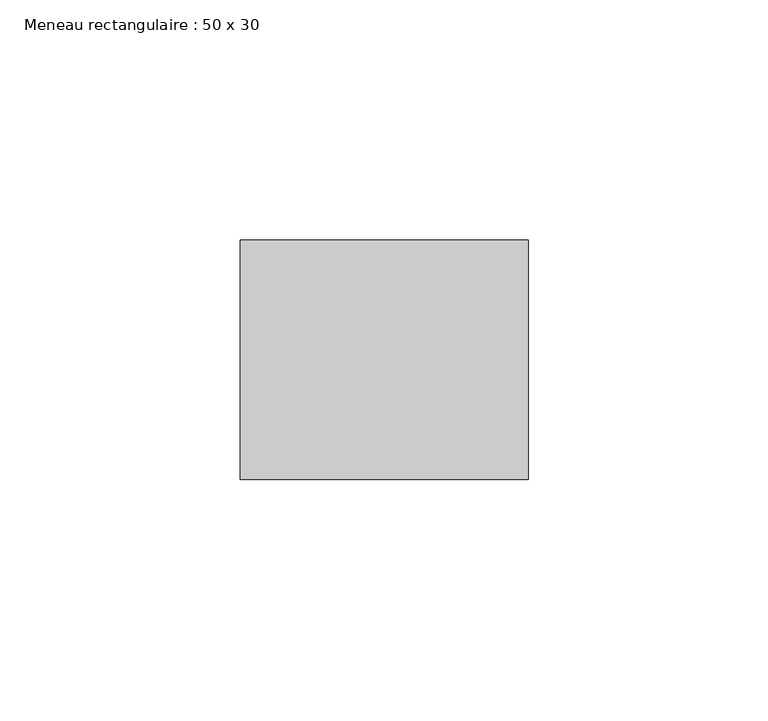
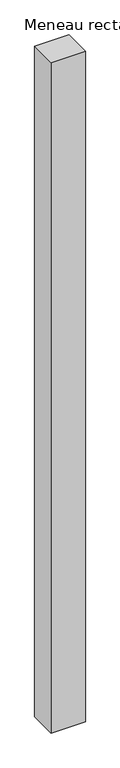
"""IFC4 building model written with IfcOpenShell, lengths in millimetres: member geometry, Meneau rectangulaire : 50 x 30."""

from ifc_helpers import new_model, si_unit, frame, origin, place, context, project, spatial, polyline, outline, extrude, source, transform, mapped, element, save


def meneau_rectangulaire_50_x_30_dee9d181(model_context):
    return source(origin(), model_context, "Body", "SweptSolid", [
        extrude(outline(polyline([(0.0, 0.0), (0.0, -50.0), (-60.0, -50.0), (-60.0, 0.0), (0.0, 0.0)])), frame((0.0, 0.0, -1244.0), z_axis=(0.0, 0.0, 1.0), x_axis=(1.0, 0.0, 0.0)), (0.0, 0.0, 1.0), 1244.0),
    ])


if __name__ == "__main__":
    model = new_model("IFC4")
    model_context = context("Model", 3, world=origin())
    ifc_project = project(units=[si_unit("LENGTHUNIT", "METRE", prefix="MILLI")], contexts=[model_context])
    site = spatial("IfcSite", under=ifc_project)
    building = spatial("IfcBuilding", under=site)
    placement = place(None, origin())
    meneau_rectangulaire_50_x_30_shape = meneau_rectangulaire_50_x_30_dee9d181(model_context)
    element("IfcMember", 1, ObjectType="Meneau rectangulaire : 50 x 30", at=placement, inside=building, context=model_context, shape_type="MappedRepresentation", body=[
        mapped(meneau_rectangulaire_50_x_30_shape, transform((0.0, 0.0, 0.0), x_axis=(1.0, 0.0, 0.0), y_axis=(0.0, 1.0, 0.0), z_axis=(0.0, 0.0, 1.0))),
    ])
    save(model, "model.ifc")
